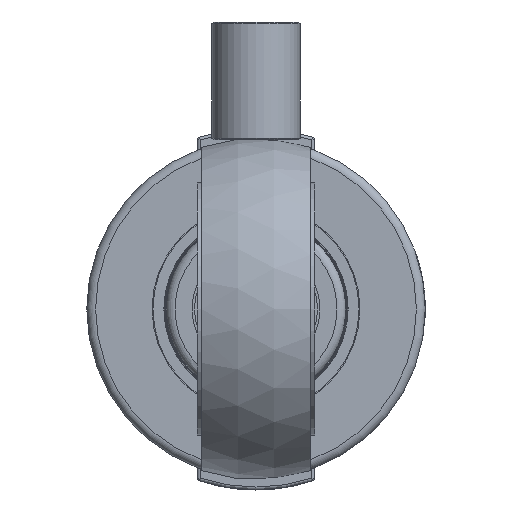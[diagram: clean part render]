
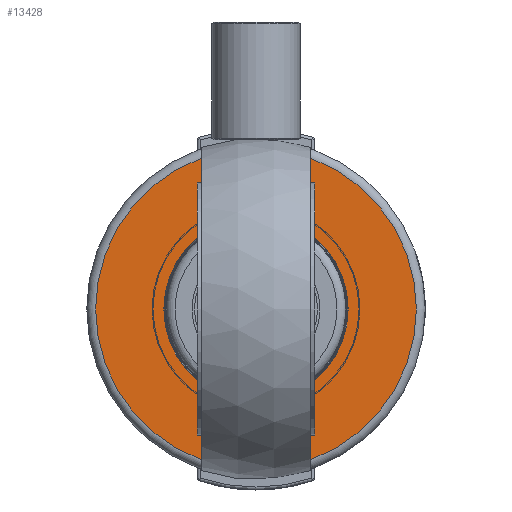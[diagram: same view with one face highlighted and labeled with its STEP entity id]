
A CAD part, front view. The second image highlights one B-rep face of the part: STEP entity #13428.
In plain terms, the highlighted planar face has unit normal (0, -1, 0) as drawn and (-1, 0, 0) by its records, which use the part's own axes.
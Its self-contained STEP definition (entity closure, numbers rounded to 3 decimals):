
#1481=FACE_BOUND('',#3268,.T.);
#1705=PLANE('',#14066);
#2441=FACE_OUTER_BOUND('',#3267,.T.);
#3267=EDGE_LOOP('',(#12186));
#3268=EDGE_LOOP('',(#12187));
#5253=CIRCLE('',#14065,54.5);
#5254=CIRCLE('',#14067,31.3);
#6582=VERTEX_POINT('',#35222);
#6583=VERTEX_POINT('',#35226);
#8472=EDGE_CURVE('',#6582,#6582,#5253,.T.);
#8473=EDGE_CURVE('',#6583,#6583,#5254,.T.);
#12186=ORIENTED_EDGE('',*,*,#8472,.F.);
#12187=ORIENTED_EDGE('',*,*,#8473,.T.);
#13428=ADVANCED_FACE('',(#2441,#1481),#1705,.T.);
#14065=AXIS2_PLACEMENT_3D('',#35224,#15911,#15912);
#14066=AXIS2_PLACEMENT_3D('',#35225,#15913,#15914);
#14067=AXIS2_PLACEMENT_3D('',#35227,#15915,#15916);
#15911=DIRECTION('center_axis',(1.,0.,0.));
#15912=DIRECTION('ref_axis',(0.,-1.,0.));
#15913=DIRECTION('center_axis',(-1.,0.,0.));
#15914=DIRECTION('ref_axis',(0.,0.,1.));
#15915=DIRECTION('center_axis',(1.,0.,0.));
#15916=DIRECTION('ref_axis',(0.,0.,-1.));
#35222=CARTESIAN_POINT('',(0.,0.,54.5));
#35224=CARTESIAN_POINT('Origin',(0.,0.,0.));
#35225=CARTESIAN_POINT('Origin',(0.,57.5,0.));
#35226=CARTESIAN_POINT('',(0.,-31.3,0.));
#35227=CARTESIAN_POINT('Origin',(0.,0.,0.));
